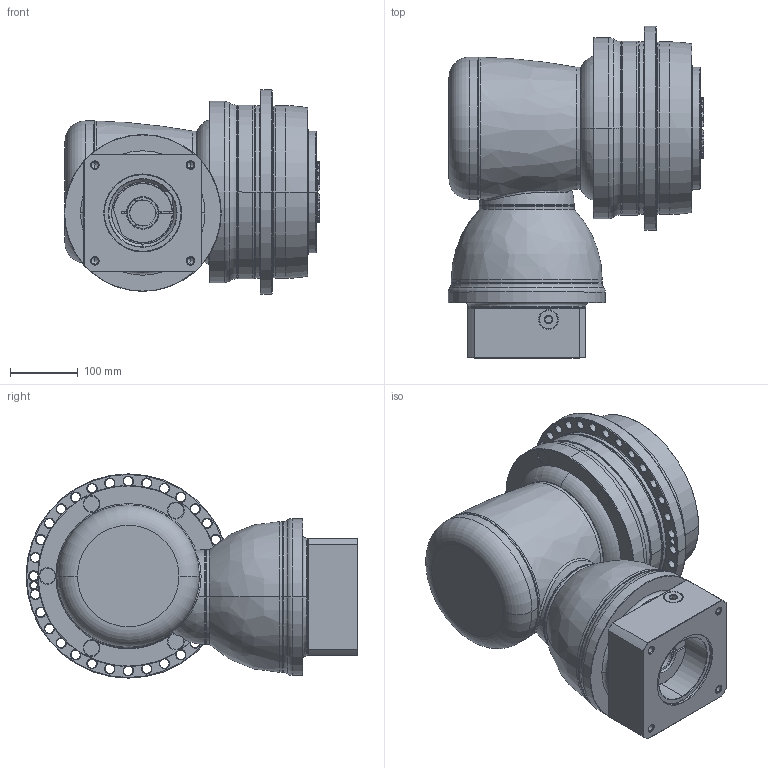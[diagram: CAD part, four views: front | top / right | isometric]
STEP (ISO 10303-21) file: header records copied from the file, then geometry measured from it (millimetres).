
FILE_DESCRIPTION((''),'2;1');
FILE_NAME('APCK255_2ST_38-P0409910201_ASM','2018-05-09T',('d01226'),(''),'PRO/ENGINEER BY PARAMETRIC TECHNOLOGY CORPORATION, 2008410','PRO/ENGINEER BY PARAMETRIC TECHNOLOGY CORPORATION, 2008410','');
FILE_SCHEMA(('CONFIG_CONTROL_DESIGN'));
Length unit declared in the file: millimetre
Products named in the file (13): P1008600002; P1802710001; P0278701003; P0359770103; P1211700001; P1315600001; P1007601001; P1318610201; P0409910201; P0503900012; P0912652001; 21711422019; APCK255_2ST_38-P0409910201_ASM
Assembly tree (12 placements, depth 2):
  APCK255_2ST_38-P0409910201_ASM
    P1008600002
    P1802710001
    P0278701003
    P0359770103
    P1211700001
    P1315600001
    P1007601001
    P1318610201
    P0409910201
    P0503900012
    P0912652001
    21711422019
Bounding box: 377.6 x 490.5 x 302 mm (x, y, z)
Volume: 22249847.7 mm3; surface area: 1399030.3 mm2
Topology: 13 solids, 25 shells, 859 faces, 2065 edges, 1265 vertices
Faces by surface type: cone 278, cylinder 271, plane 153, torus 124, bspline 31, sphere 2
Entity records: 32383 total; most frequent: CARTESIAN_POINT 11739, DIRECTION 4645, ORIENTED_EDGE 4052, EDGE_CURVE 2051, AXIS2_PLACEMENT_3D 2035, VERTEX_POINT 1265, CIRCLE 1170, EDGE_LOOP 990
